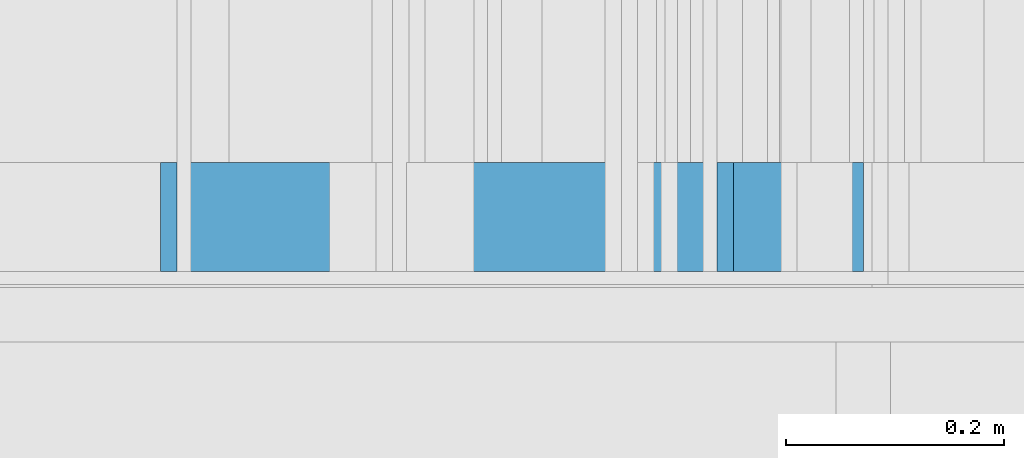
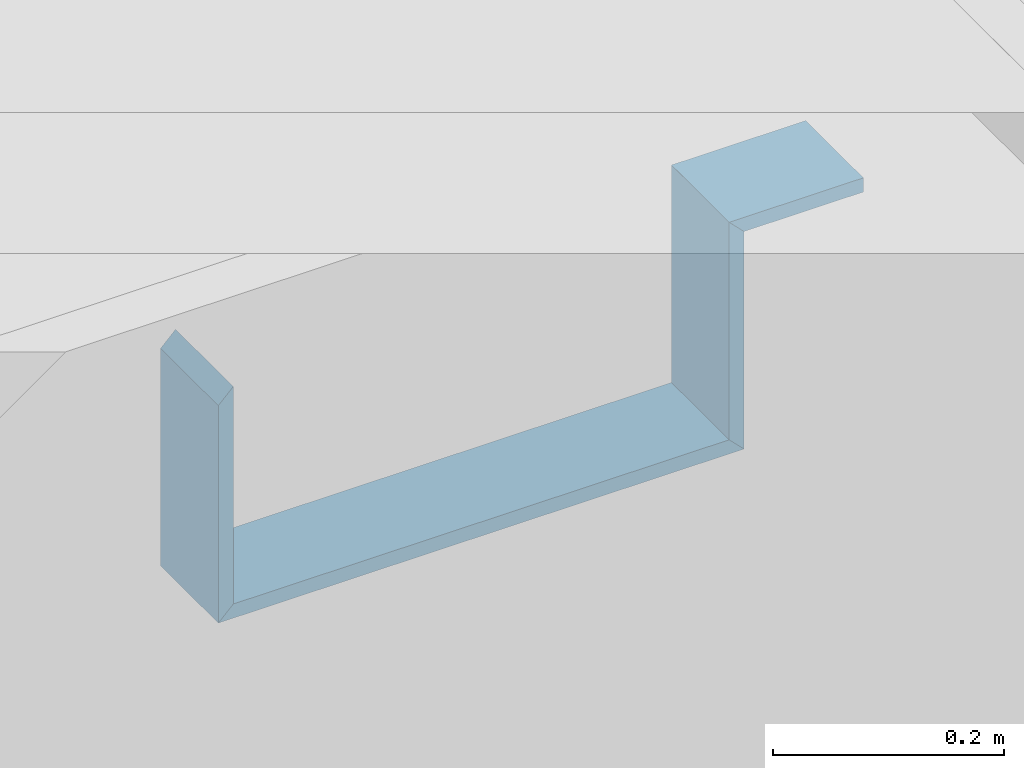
# One storey, part 203 of 583: 4 building element parts, 4 elements without a shape of their own.
"""IFC2X3 building model written with IfcOpenShell, lengths in metres."""

from ifc_helpers import new_model, entity, si_unit, converted_unit, derived_unit, money_unit, direction, frame, origin_with_axes, place, context, subcontext, project, spatial, polyline, outline, extrude, material, type_object, element, aggregate, save


model = new_model("IFC2X3")

# Units and contexts
model_context = context("Model", 3, precision=1e-05, world=origin_with_axes(), true_north=direction((0.0, 1.0)))
body_context = subcontext(model_context, "Body", "Model", "MODEL_VIEW", scale=1.0)
ifc_project = project(units=[si_unit("LENGTHUNIT", "METRE"), si_unit("AREAUNIT", "SQUARE_METRE"), si_unit("VOLUMEUNIT", "CUBIC_METRE"), si_unit("ABSORBEDDOSEUNIT", "GRAY"), si_unit("AMOUNTOFSUBSTANCEUNIT", "MOLE"), si_unit("DOSEEQUIVALENTUNIT", "SIEVERT"), si_unit("ELECTRICCAPACITANCEUNIT", "FARAD"), si_unit("ELECTRICCHARGEUNIT", "COULOMB"), si_unit("ELECTRICCONDUCTANCEUNIT", "SIEMENS"), si_unit("ELECTRICCURRENTUNIT", "AMPERE"), si_unit("ELECTRICRESISTANCEUNIT", "OHM"), si_unit("ELECTRICVOLTAGEUNIT", "VOLT"), si_unit("ENERGYUNIT", "JOULE"), si_unit("FORCEUNIT", "NEWTON"), si_unit("FREQUENCYUNIT", "HERTZ"), si_unit("ILLUMINANCEUNIT", "LUX"), si_unit("INDUCTANCEUNIT", "HENRY"), si_unit("LUMINOUSFLUXUNIT", "LUMEN"), si_unit("LUMINOUSINTENSITYUNIT", "CANDELA"), si_unit("MAGNETICFLUXDENSITYUNIT", "TESLA"), si_unit("MAGNETICFLUXUNIT", "WEBER"), si_unit("MASSUNIT", "GRAM"), converted_unit("PLANEANGLEUNIT", "degree", entity("IfcReal", 0.0174532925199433), si_unit("PLANEANGLEUNIT", "RADIAN"), dimensions=[0, 0, 0, 0, 0, 0, 0]), si_unit("POWERUNIT", "WATT"), si_unit("PRESSUREUNIT", "PASCAL"), si_unit("RADIOACTIVITYUNIT", "BECQUEREL"), si_unit("SOLIDANGLEUNIT", "STERADIAN"), si_unit("THERMODYNAMICTEMPERATUREUNIT", "KELVIN"), si_unit("TIMEUNIT", "SECOND"), derived_unit("ACCELERATIONUNIT", [(si_unit("LENGTHUNIT", "METRE"), 1), (si_unit("TIMEUNIT", "SECOND"), -2)]), derived_unit("ANGULARVELOCITYUNIT", [(converted_unit("PLANEANGLEUNIT", "degree", entity("IfcReal", 0.0174532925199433), si_unit("PLANEANGLEUNIT", "RADIAN"), dimensions=[0, 0, 0, 0, 0, 0, 0]), 1), (si_unit("TIMEUNIT", "SECOND"), -1)]), derived_unit("CURVATUREUNIT", [(converted_unit("PLANEANGLEUNIT", "degree", entity("IfcReal", 0.0174532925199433), si_unit("PLANEANGLEUNIT", "RADIAN"), dimensions=[0, 0, 0, 0, 0, 0, 0]), 1), (si_unit("LENGTHUNIT", "METRE"), -1)]), derived_unit("DYNAMICVISCOSITYUNIT", [(si_unit("PRESSUREUNIT", "PASCAL"), 1), (si_unit("TIMEUNIT", "SECOND"), 1)]), derived_unit("HEATFLUXDENSITYUNIT", [(si_unit("POWERUNIT", "WATT"), 1), (si_unit("LENGTHUNIT", "METRE"), -2)]), derived_unit("HEATINGVALUEUNIT", [(si_unit("ENERGYUNIT", "JOULE"), 1), (si_unit("MASSUNIT", "GRAM"), -1)]), derived_unit("INTEGERCOUNTRATEUNIT", [(si_unit("TIMEUNIT", "SECOND"), -1)]), derived_unit("IONCONCENTRATIONUNIT", [(si_unit("MASSUNIT", "GRAM"), 1), (si_unit("VOLUMEUNIT", "CUBIC_METRE"), -1)]), derived_unit("ISOTHERMALMOISTURECAPACITYUNIT", [(si_unit("VOLUMEUNIT", "CUBIC_METRE"), 1), (si_unit("MASSUNIT", "GRAM"), -1)]), derived_unit("KINEMATICVISCOSITYUNIT", [(si_unit("AREAUNIT", "SQUARE_METRE"), 1), (si_unit("TIMEUNIT", "SECOND"), -1)]), derived_unit("LINEARFORCEUNIT", [(si_unit("FORCEUNIT", "NEWTON"), 1), (si_unit("LENGTHUNIT", "METRE"), -1)]), derived_unit("LINEARMOMENTUNIT", [(si_unit("FORCEUNIT", "NEWTON"), 1), (si_unit("LENGTHUNIT", "METRE"), -1)]), derived_unit("LINEARSTIFFNESSUNIT", [(si_unit("FORCEUNIT", "NEWTON"), 1), (si_unit("LENGTHUNIT", "METRE"), -1)]), derived_unit("LINEARVELOCITYUNIT", [(si_unit("LENGTHUNIT", "METRE"), 1), (si_unit("TIMEUNIT", "SECOND"), -1)]), derived_unit("LUMINOUSINTENSITYDISTRIBUTIONUNIT", [(si_unit("LUMINOUSINTENSITYUNIT", "CANDELA"), 1), (si_unit("LUMINOUSFLUXUNIT", "LUMEN"), -1)]), derived_unit("MASSDENSITYUNIT", [(si_unit("MASSUNIT", "GRAM"), 1), (si_unit("VOLUMEUNIT", "CUBIC_METRE"), -1)]), derived_unit("MASSFLOWRATEUNIT", [(si_unit("MASSUNIT", "GRAM"), 1), (si_unit("TIMEUNIT", "SECOND"), -1)]), derived_unit("MASSPERLENGTHUNIT", [(si_unit("MASSUNIT", "GRAM"), 1), (si_unit("LENGTHUNIT", "METRE"), -1)]), derived_unit("MODULUSOFELASTICITYUNIT", [(si_unit("FORCEUNIT", "NEWTON"), 1), (si_unit("AREAUNIT", "SQUARE_METRE"), -1)]), derived_unit("MODULUSOFLINEARSUBGRADEREACTIONUNIT", [(si_unit("FORCEUNIT", "NEWTON"), 1), (si_unit("LENGTHUNIT", "METRE"), -2)]), derived_unit("MODULUSOFROTATIONALSUBGRADEREACTIONUNIT", [(si_unit("FORCEUNIT", "NEWTON"), 1), (si_unit("LENGTHUNIT", "METRE"), 1)]), derived_unit("MODULUSOFSUBGRADEREACTIONUNIT", [(si_unit("FORCEUNIT", "NEWTON"), 1), (si_unit("VOLUMEUNIT", "CUBIC_METRE"), -1)]), derived_unit("MOISTUREDIFFUSIVITYUNIT", [(si_unit("VOLUMEUNIT", "CUBIC_METRE"), 1), (si_unit("TIMEUNIT", "SECOND"), -1)]), derived_unit("MOLECULARWEIGHTUNIT", [(si_unit("MASSUNIT", "GRAM"), 1), (si_unit("AMOUNTOFSUBSTANCEUNIT", "MOLE"), -1)]), derived_unit("PLANARFORCEUNIT", [(si_unit("FORCEUNIT", "NEWTON"), 1), (si_unit("LENGTHUNIT", "METRE"), -2)]), derived_unit("ROTATIONALFREQUENCYUNIT", [(si_unit("TIMEUNIT", "SECOND"), -1)]), derived_unit("ROTATIONALMASSUNIT", [(si_unit("MASSUNIT", "GRAM"), 1), (si_unit("LENGTHUNIT", "METRE"), 2)]), derived_unit("ROTATIONALSTIFFNESSUNIT", [(si_unit("FORCEUNIT", "NEWTON"), 1), (si_unit("LENGTHUNIT", "METRE"), 1), (converted_unit("PLANEANGLEUNIT", "degree", entity("IfcReal", 0.0174532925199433), si_unit("PLANEANGLEUNIT", "RADIAN"), dimensions=[0, 0, 0, 0, 0, 0, 0]), -1)]), derived_unit("SECTIONAREAINTEGRALUNIT", [(si_unit("LENGTHUNIT", "METRE"), 5)]), derived_unit("SECTIONMODULUSUNIT", [(si_unit("LENGTHUNIT", "METRE"), 3)]), derived_unit("SHEARMODULUSUNIT", [(si_unit("FORCEUNIT", "NEWTON"), 1), (si_unit("AREAUNIT", "SQUARE_METRE"), -1)]), derived_unit("SOUNDPOWERUNIT", [(si_unit("ENERGYUNIT", "JOULE"), 1), (si_unit("TIMEUNIT", "SECOND"), -1)]), derived_unit("SPECIFICHEATCAPACITYUNIT", [(si_unit("FORCEUNIT", "NEWTON"), 1), (si_unit("MASSUNIT", "GRAM"), -1), (si_unit("THERMODYNAMICTEMPERATUREUNIT", "KELVIN"), -1)]), derived_unit("TEMPERATUREGRADIENTUNIT", [(si_unit("THERMODYNAMICTEMPERATUREUNIT", "KELVIN"), 1), (si_unit("LENGTHUNIT", "METRE"), -1)]), derived_unit("THERMALADMITTANCEUNIT", [(si_unit("POWERUNIT", "WATT"), 1), (si_unit("AREAUNIT", "SQUARE_METRE"), -1), (si_unit("THERMODYNAMICTEMPERATUREUNIT", "KELVIN"), -1)]), derived_unit("THERMALCONDUCTANCEUNIT", [(si_unit("POWERUNIT", "WATT"), 1), (si_unit("LENGTHUNIT", "METRE"), -1), (si_unit("THERMODYNAMICTEMPERATUREUNIT", "KELVIN"), -1)]), derived_unit("THERMALEXPANSIONCOEFFICIENTUNIT", [(si_unit("THERMODYNAMICTEMPERATUREUNIT", "KELVIN"), -1)]), derived_unit("THERMALRESISTANCEUNIT", [(si_unit("AREAUNIT", "SQUARE_METRE"), 1), (si_unit("POWERUNIT", "WATT"), -1)]), derived_unit("THERMALTRANSMITTANCEUNIT", [(si_unit("POWERUNIT", "WATT"), 1), (si_unit("AREAUNIT", "SQUARE_METRE"), -1), (si_unit("THERMODYNAMICTEMPERATUREUNIT", "KELVIN"), -1)]), derived_unit("TORQUEUNIT", [(si_unit("FORCEUNIT", "NEWTON"), 1), (si_unit("LENGTHUNIT", "METRE"), 1)]), derived_unit("VAPORPERMEABILITYUNIT", [(si_unit("MASSUNIT", "GRAM"), 1), (si_unit("TIMEUNIT", "SECOND"), -1)]), derived_unit("VOLUMETRICFLOWRATEUNIT", [(si_unit("VOLUMEUNIT", "CUBIC_METRE"), 1), (si_unit("TIMEUNIT", "SECOND"), -1)]), derived_unit("WARPINGCONSTANTUNIT", [(si_unit("LENGTHUNIT", "METRE"), 6)]), derived_unit("WARPINGMOMENTUNIT", [(si_unit("FORCEUNIT", "NEWTON"), 1), (si_unit("LENGTHUNIT", "METRE"), 2)]), money_unit("GBP")], contexts=[model_context])

# Site, building, storey
site_placement = place(None, origin_with_axes())
site = spatial("IfcSite", under=ifc_project, at=site_placement, Name="Site", CompositionType="ELEMENT")
building_placement = place(site_placement, origin_with_axes())
building = spatial("IfcBuilding", under=site, at=building_placement, Name="Building01", CompositionType="ELEMENT")
storey_placement = place(building_placement, frame((0.0, 0.0, 20.78), z_axis=(0.0, 0.0, 1.0), x_axis=(1.0, 0.0, 0.0)))
storey = spatial("IfcBuildingStorey", under=building, at=storey_placement, Name="RL", CompositionType="ELEMENT", Elevation=20.78)

# Wall, building element part
wall_type = type_object("IfcWallType", Name="SHE_A-Walls_Type06d_ExternalWallInsulation_48mm", PredefinedType="NOTDEFINED")
wall_1_placement = place(storey_placement, frame((6.1, 8.64, 5.93), z_axis=(0.0, 1.0, 0.0), x_axis=(0.0, 0.0, -1.0)))
wall_1 = element("IfcWall", 1, at=wall_1_placement, inside=storey, type_object=wall_type, Name="6D", ObjectType="SHE_A-Walls_Type06d_ExternalWallInsulation_48mm")
ifc_material = material(Name="A_BSUK_Walls_Timber")
building_element_part_1_placement = place(wall_1_placement, origin_with_axes())
building_element_part_1 = element("IfcBuildingElementPart", 2, at=building_element_part_1_placement, material=ifc_material, Name="2", context=body_context, shape_type="SweptSolid", body=[
    extrude(outline(polyline([(0.293, 0.063), (0.063, 0.063), (0.048, 0.048), (0.278, 0.048), (0.293, 0.063)])), frame((0.0, 0.0, 0.015), z_axis=(0.0, 0.0, 1.0), x_axis=(1.0, 0.0, 0.0)), (0.0, 0.0, 1.0), 0.1),
])
aggregate(wall_1, [building_element_part_1])

wall_2_placement = place(storey_placement, frame((6.1, 8.64, 5.7), z_axis=(0.0, 1.0, 0.0), x_axis=(1.0, 0.0, 0.0)))
wall_2 = element("IfcWall", 3, at=wall_2_placement, inside=storey, type_object=wall_type, Name="6D", ObjectType="SHE_A-Walls_Type06d_ExternalWallInsulation_48mm")
building_element_part_2_placement = place(wall_2_placement, origin_with_axes())
building_element_part_2 = element("IfcBuildingElementPart", 4, at=building_element_part_2_placement, material=ifc_material, Name="2", context=body_context, shape_type="SweptSolid", body=[
    extrude(outline(polyline([(0.463, 0.063), (-0.063, 0.063), (-0.048, 0.048), (0.448, 0.048), (0.463, 0.063)])), frame((0.0, 0.0, 0.015), z_axis=(0.0, 0.0, 1.0), x_axis=(1.0, 0.0, 0.0)), (0.0, 0.0, 1.0), 0.1),
])
aggregate(wall_2, [building_element_part_2])

wall_3_placement = place(storey_placement, frame((6.5, 8.64, 5.7), z_axis=(0.0, 1.0, 0.0), x_axis=(0.0, 0.0, 1.0)))
wall_3 = element("IfcWall", 5, at=wall_3_placement, inside=storey, type_object=wall_type, Name="6D", ObjectType="SHE_A-Walls_Type06d_ExternalWallInsulation_48mm")
building_element_part_3_placement = place(wall_3_placement, origin_with_axes())
building_element_part_3 = element("IfcBuildingElementPart", 6, at=building_element_part_3_placement, material=ifc_material, Name="2", context=body_context, shape_type="SweptSolid", body=[
    extrude(outline(polyline([(0.167, 0.063), (-0.063, 0.063), (-0.048, 0.048), (0.182, 0.048), (0.167, 0.063)])), frame((0.0, 0.0, 0.015), z_axis=(0.0, 0.0, 1.0), x_axis=(1.0, 0.0, 0.0)), (0.0, 0.0, 1.0), 0.1),
])
aggregate(wall_3, [building_element_part_3])

wall_4_placement = place(storey_placement, frame((6.5, 8.64, 5.93), z_axis=(0.0, 1.0, 0.0), x_axis=(1.0, 0.0, 0.0)))
wall_4 = element("IfcWall", 7, at=wall_4_placement, inside=storey, type_object=wall_type, Name="6D", ObjectType="SHE_A-Walls_Type06d_ExternalWallInsulation_48mm")
building_element_part_4_placement = place(wall_4_placement, origin_with_axes())
building_element_part_4 = element("IfcBuildingElementPart", 8, at=building_element_part_4_placement, material=ifc_material, Name="2", context=body_context, shape_type="SweptSolid", body=[
    extrude(outline(polyline([(0.063, 0.063), (0.048, 0.048), (0.182326, 0.048), (0.182326, 0.063), (0.063, 0.063)])), frame((0.0, 0.0, 0.015), z_axis=(0.0, 0.0, 1.0), x_axis=(1.0, 0.0, 0.0)), (0.0, 0.0, 1.0), 0.1),
])
aggregate(wall_4, [building_element_part_4])

save(model, "model.ifc")
